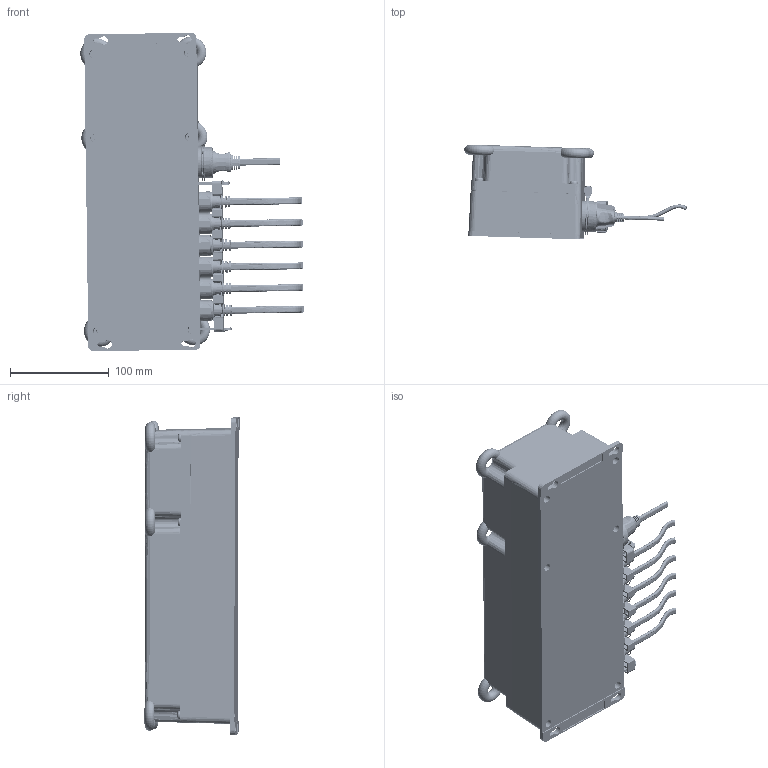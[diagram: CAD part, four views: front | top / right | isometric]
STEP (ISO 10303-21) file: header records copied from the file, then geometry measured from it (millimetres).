
FILE_DESCRIPTION((''),'2;1');
FILE_NAME('CB4P_ASM','2014-06-03T',('user'),(''),'PRO/ENGINEER BY PARAMETRIC TECHNOLOGY CORPORATION, 2008090','PRO/ENGINEER BY PARAMETRIC TECHNOLOGY CORPORATION, 2008090','');
FILE_SCHEMA(('CONFIG_CONTROL_DESIGN'));
Products named in the file (1): CB4P_ASM
Bounding box: 226.52 x 96.51 x 322.5 mm (x, y, z)
Surface area: 438486.5 mm2 (no closed solid volume)
Topology: 0 solids, 0 shells, 3075 faces, 16734 edges, 16621 vertices
Faces by surface type: bspline 2952, torus 113, sphere 10
Entity records: 368131 total; most frequent: CARTESIAN_POINT 229757, DIRECTION 19640, TRIMMED_CURVE 17396, DEFINITIONAL_REPRESENTATION 16512, PCURVE 16512, COMPOSITE_CURVE_SEGMENT 16512, VECTOR 15398, LINE 15398
